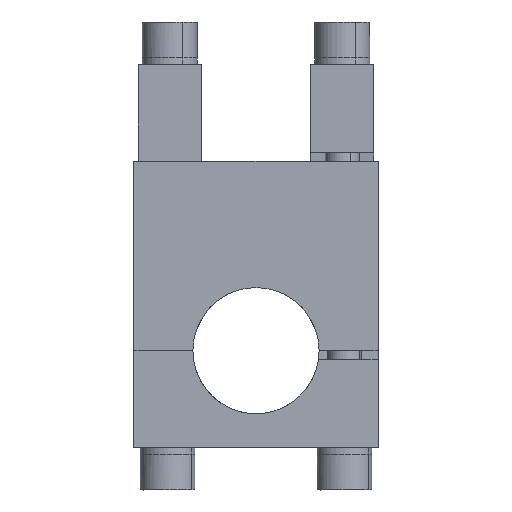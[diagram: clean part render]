
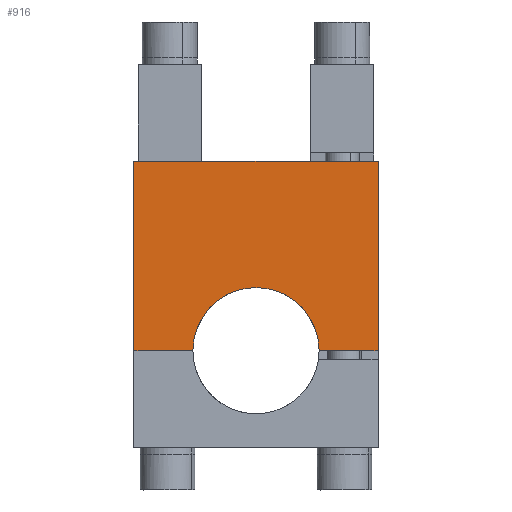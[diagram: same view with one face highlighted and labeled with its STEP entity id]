
A CAD part, left-side view. The second image highlights one B-rep face of the part: STEP entity #916.
In plain terms, the highlighted planar face has unit normal (-1, 0, 0).
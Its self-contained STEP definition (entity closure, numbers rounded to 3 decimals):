
#187=CARTESIAN_POINT('Vertex',(-29.,-15.,0.)) ;
#192=CARTESIAN_POINT('Axis2P3D Location',(-29.,0.,0.)) ;
#196=CARTESIAN_POINT('Vertex',(-29.,15.,0.)) ;
#819=CARTESIAN_POINT('Vertex',(-29.,-29.,0.)) ;
#824=CARTESIAN_POINT('Line Origine',(-29.,-22.,0.)) ;
#877=CARTESIAN_POINT('Axis2P3D Location',(-29.,0.,0.)) ;
#882=CARTESIAN_POINT('Line Origine',(-29.,-29.,22.5)) ;
#886=CARTESIAN_POINT('Vertex',(-29.,-29.,45.)) ;
#889=CARTESIAN_POINT('Line Origine',(-29.,0.,45.)) ;
#893=CARTESIAN_POINT('Vertex',(-29.,29.,45.)) ;
#896=CARTESIAN_POINT('Line Origine',(-29.,29.,22.5)) ;
#900=CARTESIAN_POINT('Vertex',(-29.,29.,0.)) ;
#903=CARTESIAN_POINT('Line Origine',(-29.,22.,0.)) ;
#193=DIRECTION('Axis2P3D Direction',(1.,0.,0.)) ;
#825=DIRECTION('Vector Direction',(0.,-1.,0.)) ;
#878=DIRECTION('Axis2P3D Direction',(1.,0.,0.)) ;
#879=DIRECTION('Axis2P3D XDirection',(0.,1.,0.)) ;
#883=DIRECTION('Vector Direction',(0.,0.,1.)) ;
#890=DIRECTION('Vector Direction',(0.,1.,0.)) ;
#897=DIRECTION('Vector Direction',(0.,0.,-1.)) ;
#904=DIRECTION('Vector Direction',(0.,-1.,0.)) ;
#194=AXIS2_PLACEMENT_3D('Circle Axis2P3D',#192,#193,$) ;
#880=AXIS2_PLACEMENT_3D('Plane Axis2P3D',#877,#878,#879) ;
#909=ORIENTED_EDGE('',*,*,#198,.F.) ;
#910=ORIENTED_EDGE('',*,*,#828,.F.) ;
#911=ORIENTED_EDGE('',*,*,#888,.F.) ;
#912=ORIENTED_EDGE('',*,*,#895,.F.) ;
#913=ORIENTED_EDGE('',*,*,#902,.F.) ;
#914=ORIENTED_EDGE('',*,*,#907,.F.) ;
#826=VECTOR('Line Direction',#825,1.) ;
#884=VECTOR('Line Direction',#883,1.) ;
#891=VECTOR('Line Direction',#890,1.) ;
#898=VECTOR('Line Direction',#897,1.) ;
#905=VECTOR('Line Direction',#904,1.) ;
#916=ADVANCED_FACE('EGT_130_rd30_30_X90_sim_ET.1\\PartBody',(#915),#881,.F.) ;
#195=CIRCLE('generated circle',#194,15.) ;
#198=EDGE_CURVE('',#188,#197,#195,.F.) ;
#828=EDGE_CURVE('',#820,#188,#827,.F.) ;
#888=EDGE_CURVE('',#887,#820,#885,.F.) ;
#895=EDGE_CURVE('',#894,#887,#892,.F.) ;
#902=EDGE_CURVE('',#901,#894,#899,.F.) ;
#907=EDGE_CURVE('',#197,#901,#906,.F.) ;
#908=EDGE_LOOP('',(#909,#910,#911,#912,#913,#914)) ;
#915=FACE_OUTER_BOUND('',#908,.T.) ;
#827=LINE('Line',#824,#826) ;
#885=LINE('Line',#882,#884) ;
#892=LINE('Line',#889,#891) ;
#899=LINE('Line',#896,#898) ;
#906=LINE('Line',#903,#905) ;
#881=PLANE('',#880) ;
#188=VERTEX_POINT('',#187) ;
#197=VERTEX_POINT('',#196) ;
#820=VERTEX_POINT('',#819) ;
#887=VERTEX_POINT('',#886) ;
#894=VERTEX_POINT('',#893) ;
#901=VERTEX_POINT('',#900) ;
